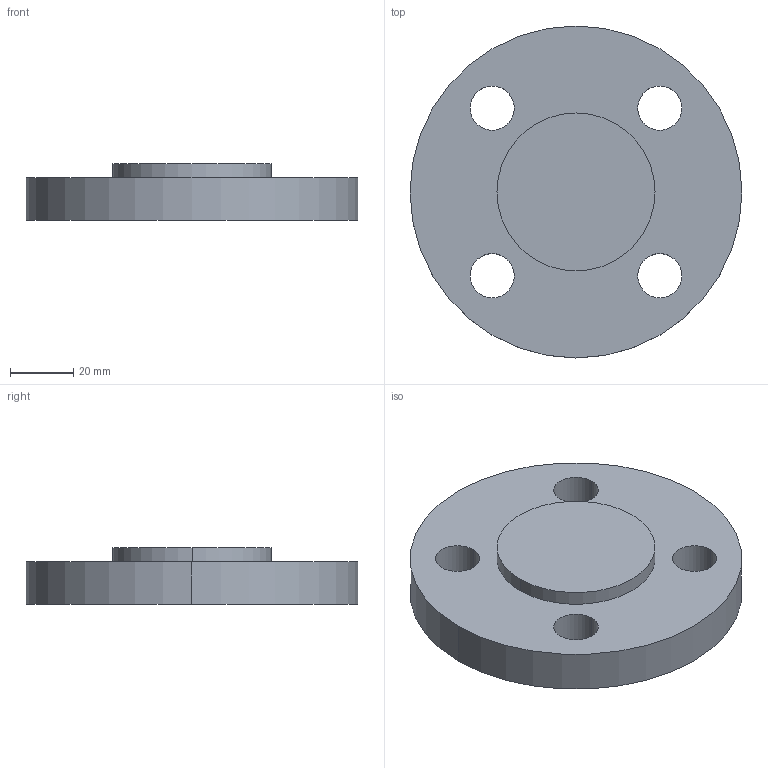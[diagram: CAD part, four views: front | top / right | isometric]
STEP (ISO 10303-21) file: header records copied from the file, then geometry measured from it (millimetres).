
FILE_DESCRIPTION (( 'STEP AP214' ), '1' );
FILE_NAME ('PN40 DN20 Type 05 - Type E Face.STEP', '2018-12-29T18:23:56', ( '' ), ( '' ), 'SwSTEP 2.0', 'SolidWorks 2019', '' );
FILE_SCHEMA (( 'AUTOMOTIVE_DESIGN' ));
Length unit declared in the file: millimetre
Products named in the file (1): PN40 DN20 Type 05 - Type E Face
Bounding box: 105 x 105 x 18 mm (x, y, z)
Volume: 117419.8 mm3; surface area: 23621.6 mm2
Topology: 1 solids, 1 shells, 15 faces, 36 edges, 24 vertices
Faces by surface type: cylinder 12, plane 3
Entity records: 504 total; most frequent: DIRECTION 92, CARTESIAN_POINT 76, ORIENTED_EDGE 72, AXIS2_PLACEMENT_3D 40, EDGE_CURVE 36, CIRCLE 24, EDGE_LOOP 24, VERTEX_POINT 24
